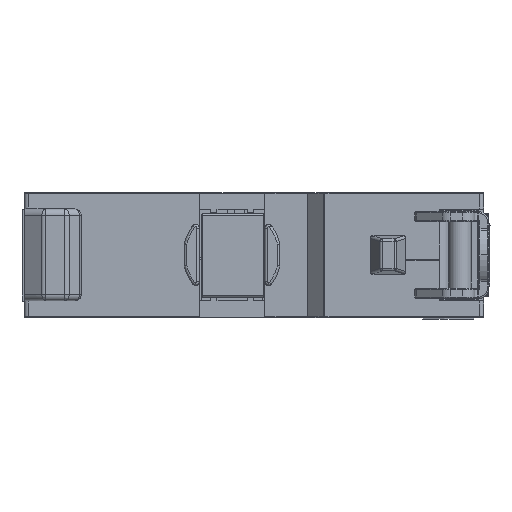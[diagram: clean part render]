
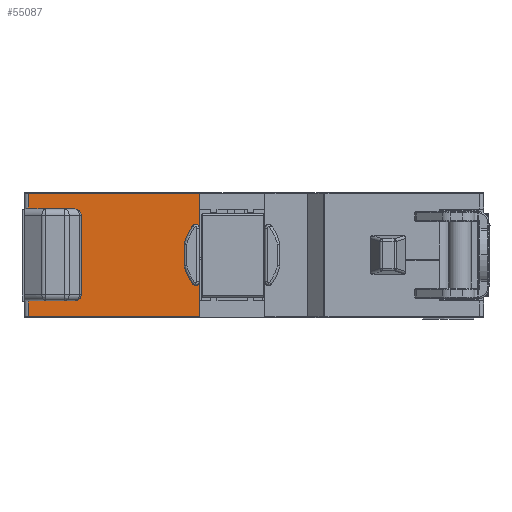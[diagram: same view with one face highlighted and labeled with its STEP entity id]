
A CAD part, top view. The second image highlights one B-rep face of the part: STEP entity #55087.
In plain terms, the highlighted planar face has unit normal (0, 0, 1).
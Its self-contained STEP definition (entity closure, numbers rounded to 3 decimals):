
#648 = CIRCLE ( 'NONE', #24247, 0.3 ) ;
#650 = VERTEX_POINT ( 'NONE', #49465 ) ;
#1181 = EDGE_CURVE ( 'NONE', #7527, #20041, #53222, .T. ) ;
#1490 = VECTOR ( 'NONE', #48809, 1000. ) ;
#1649 = VECTOR ( 'NONE', #1969, 1000. ) ;
#1718 = VERTEX_POINT ( 'NONE', #53734 ) ;
#1969 = DIRECTION ( 'NONE',  ( 0., -1., 0. ) ) ;
#2144 = ORIENTED_EDGE ( 'NONE', *, *, #38549, .F. ) ;
#2689 = DIRECTION ( 'NONE',  ( 0., 1., 0. ) ) ;
#3171 = AXIS2_PLACEMENT_3D ( 'NONE', #56065, #22221, #17128 ) ;
#3708 = CARTESIAN_POINT ( 'NONE',  ( -1.887, -6.561, 33.484 ) ) ;
#4067 = AXIS2_PLACEMENT_3D ( 'NONE', #11348, #28692, #54823 ) ;
#4220 = AXIS2_PLACEMENT_3D ( 'NONE', #33695, #16065, #16610 ) ;
#4788 = VERTEX_POINT ( 'NONE', #36442 ) ;
#5096 = EDGE_CURVE ( 'NONE', #33487, #18694, #13645, .T. ) ;
#5588 = LINE ( 'NONE', #45375, #1490 ) ;
#5640 = LINE ( 'NONE', #6484, #1649 ) ;
#5700 = EDGE_CURVE ( 'NONE', #28237, #7527, #55740, .T. ) ;
#5708 = LINE ( 'NONE', #10546, #17475 ) ;
#6484 = CARTESIAN_POINT ( 'NONE',  ( -1.346, -8.871, 33.484 ) ) ;
#6544 = VERTEX_POINT ( 'NONE', #38636 ) ;
#7057 = CARTESIAN_POINT ( 'NONE',  ( -1.646, -6.738, 33.484 ) ) ;
#7475 = CARTESIAN_POINT ( 'NONE',  ( -15.246, -12.521, 33.484 ) ) ;
#7527 = VERTEX_POINT ( 'NONE', #54529 ) ;
#7824 = DIRECTION ( 'NONE',  ( 0., 1., 0. ) ) ;
#8792 = CARTESIAN_POINT ( 'NONE',  ( -1.346, -12.271, 33.484 ) ) ;
#9070 = LINE ( 'NONE', #8792, #44858 ) ;
#10078 = LINE ( 'NONE', #27164, #12331 ) ;
#10546 = CARTESIAN_POINT ( 'NONE',  ( -14.946, -8.221, 33.484 ) ) ;
#10549 = LINE ( 'NONE', #31034, #45610 ) ;
#11348 = CARTESIAN_POINT ( 'NONE',  ( 1.254, -8.871, 33.484 ) ) ;
#12331 = VECTOR ( 'NONE', #26878, 1000. ) ;
#12638 = ORIENTED_EDGE ( 'NONE', *, *, #14475, .F. ) ;
#13645 = LINE ( 'NONE', #22741, #19383 ) ;
#14050 = CIRCLE ( 'NONE', #45823, 0.5 ) ;
#14081 = ORIENTED_EDGE ( 'NONE', *, *, #49196, .F. ) ;
#14312 = AXIS2_PLACEMENT_3D ( 'NONE', #7475, #37900, #54939 ) ;
#14475 = EDGE_CURVE ( 'NONE', #650, #1718, #24891, .T. ) ;
#14940 = EDGE_CURVE ( 'NONE', #6544, #28237, #10549, .T. ) ;
#16065 = DIRECTION ( 'NONE',  ( 0., 0., 1. ) ) ;
#16610 = DIRECTION ( 'NONE',  ( 0., 1., 0. ) ) ;
#16692 = DIRECTION ( 'NONE',  ( 0., 0., 1. ) ) ;
#16969 = CARTESIAN_POINT ( 'NONE',  ( -1.346, -13.771, 33.484 ) ) ;
#17102 = CARTESIAN_POINT ( 'NONE',  ( -14.946, -13.771, 33.484 ) ) ;
#17128 = DIRECTION ( 'NONE',  ( 0., 1., 0. ) ) ;
#17184 = CARTESIAN_POINT ( 'NONE',  ( -2.546, -9.749, 33.484 ) ) ;
#17322 = DIRECTION ( 'NONE',  ( 0., -1., 0. ) ) ;
#17475 = VECTOR ( 'NONE', #35579, 1000. ) ;
#17542 = ORIENTED_EDGE ( 'NONE', *, *, #14940, .F. ) ;
#17852 = CARTESIAN_POINT ( 'NONE',  ( -1.346, -11.005, 33.484 ) ) ;
#18358 = CARTESIAN_POINT ( 'NONE',  ( -1.646, -6.438, 33.484 ) ) ;
#18547 = VERTEX_POINT ( 'NONE', #33890 ) ;
#18694 = VERTEX_POINT ( 'NONE', #44067 ) ;
#19151 = EDGE_CURVE ( 'NONE', #20041, #24938, #9070, .T. ) ;
#19164 = ORIENTED_EDGE ( 'NONE', *, *, #5096, .F. ) ;
#19383 = VECTOR ( 'NONE', #53137, 1000. ) ;
#19818 = EDGE_CURVE ( 'NONE', #55597, #6544, #28589, .T. ) ;
#20041 = VERTEX_POINT ( 'NONE', #17852 ) ;
#20848 = PLANE ( 'NONE',  #14312 ) ;
#22159 = AXIS2_PLACEMENT_3D ( 'NONE', #55593, #24646, #55888 ) ;
#22221 = DIRECTION ( 'NONE',  ( 0., 0., 1. ) ) ;
#22296 = VERTEX_POINT ( 'NONE', #31907 ) ;
#22741 = CARTESIAN_POINT ( 'NONE',  ( -15.246, -5.221, 33.484 ) ) ;
#23535 = EDGE_CURVE ( 'NONE', #22296, #18547, #55964, .T. ) ;
#23625 = LINE ( 'NONE', #28726, #37789 ) ;
#24247 = AXIS2_PLACEMENT_3D ( 'NONE', #33506, #42576, #47132 ) ;
#24411 = DIRECTION ( 'NONE',  ( 0., 1., 0. ) ) ;
#24640 = ORIENTED_EDGE ( 'NONE', *, *, #31688, .F. ) ;
#24646 = DIRECTION ( 'NONE',  ( 0., 0., 1. ) ) ;
#24891 = LINE ( 'NONE', #37133, #51021 ) ;
#24932 = EDGE_LOOP ( 'NONE', ( #54599, #41994, #47947, #17542, #40243, #25934, #26028, #14081, #35025, #2144, #19164, #24640, #12638, #33354, #46245, #35844, #56204 ) ) ;
#24938 = VERTEX_POINT ( 'NONE', #16969 ) ;
#25035 = CARTESIAN_POINT ( 'NONE',  ( -14.946, -3.971, 33.484 ) ) ;
#25934 = ORIENTED_EDGE ( 'NONE', *, *, #48126, .F. ) ;
#26028 = ORIENTED_EDGE ( 'NONE', *, *, #48122, .F. ) ;
#26668 = CARTESIAN_POINT ( 'NONE',  ( -15.246, -12.521, 33.484 ) ) ;
#26878 = DIRECTION ( 'NONE',  ( -1., 0., 0. ) ) ;
#27164 = CARTESIAN_POINT ( 'NONE',  ( 3.004, -13.771, 33.484 ) ) ;
#27169 = VERTEX_POINT ( 'NONE', #17102 ) ;
#28237 = VERTEX_POINT ( 'NONE', #17184 ) ;
#28589 = CIRCLE ( 'NONE', #4067, 3.9 ) ;
#28692 = DIRECTION ( 'NONE',  ( 0., 0., 1. ) ) ;
#28726 = CARTESIAN_POINT ( 'NONE',  ( -14.946, -13.171, 33.484 ) ) ;
#29691 = DIRECTION ( 'NONE',  ( 0., 0., 1. ) ) ;
#29900 = CARTESIAN_POINT ( 'NONE',  ( -13.046, -5.221, 33.484 ) ) ;
#30573 = AXIS2_PLACEMENT_3D ( 'NONE', #7057, #16692, #24411 ) ;
#31034 = CARTESIAN_POINT ( 'NONE',  ( -2.546, -8.871, 33.484 ) ) ;
#31688 = EDGE_CURVE ( 'NONE', #1718, #33487, #37663, .T. ) ;
#31859 = VERTEX_POINT ( 'NONE', #25035 ) ;
#31907 = CARTESIAN_POINT ( 'NONE',  ( -14.946, -12.521, 33.484 ) ) ;
#32323 = EDGE_CURVE ( 'NONE', #24938, #27169, #10078, .T. ) ;
#32511 = EDGE_CURVE ( 'NONE', #31859, #45401, #5588, .T. ) ;
#33354 = ORIENTED_EDGE ( 'NONE', *, *, #42921, .F. ) ;
#33487 = VERTEX_POINT ( 'NONE', #29900 ) ;
#33506 = CARTESIAN_POINT ( 'NONE',  ( -1.646, -6.738, 33.484 ) ) ;
#33695 = CARTESIAN_POINT ( 'NONE',  ( -1.646, -11.005, 33.484 ) ) ;
#33890 = CARTESIAN_POINT ( 'NONE',  ( -13.046, -12.521, 33.484 ) ) ;
#35025 = ORIENTED_EDGE ( 'NONE', *, *, #32511, .F. ) ;
#35579 = DIRECTION ( 'NONE',  ( 0., 1., 0. ) ) ;
#35844 = ORIENTED_EDGE ( 'NONE', *, *, #47616, .F. ) ;
#36442 = CARTESIAN_POINT ( 'NONE',  ( -1.346, -6.738, 33.484 ) ) ;
#36936 = CIRCLE ( 'NONE', #30573, 0.3 ) ;
#37133 = CARTESIAN_POINT ( 'NONE',  ( -12.546, -8.871, 33.484 ) ) ;
#37663 = CIRCLE ( 'NONE', #3171, 0.5 ) ;
#37789 = VECTOR ( 'NONE', #51155, 1000. ) ;
#37900 = DIRECTION ( 'NONE',  ( 0., 0., -1. ) ) ;
#38549 = EDGE_CURVE ( 'NONE', #18694, #31859, #5708, .T. ) ;
#38636 = CARTESIAN_POINT ( 'NONE',  ( -2.546, -7.994, 33.484 ) ) ;
#40243 = ORIENTED_EDGE ( 'NONE', *, *, #19818, .F. ) ;
#41625 = CARTESIAN_POINT ( 'NONE',  ( -13.046, -12.021, 33.484 ) ) ;
#41994 = ORIENTED_EDGE ( 'NONE', *, *, #1181, .F. ) ;
#42576 = DIRECTION ( 'NONE',  ( 0., 0., 1. ) ) ;
#42921 = EDGE_CURVE ( 'NONE', #18547, #650, #14050, .T. ) ;
#44067 = CARTESIAN_POINT ( 'NONE',  ( -14.946, -5.221, 33.484 ) ) ;
#44858 = VECTOR ( 'NONE', #17322, 1000. ) ;
#45375 = CARTESIAN_POINT ( 'NONE',  ( 3.004, -3.971, 33.484 ) ) ;
#45401 = VERTEX_POINT ( 'NONE', #48658 ) ;
#45610 = VECTOR ( 'NONE', #48360, 1000. ) ;
#45823 = AXIS2_PLACEMENT_3D ( 'NONE', #41625, #29691, #2689 ) ;
#46245 = ORIENTED_EDGE ( 'NONE', *, *, #23535, .F. ) ;
#46412 = FACE_OUTER_BOUND ( 'NONE', #24932, .T. ) ;
#47132 = DIRECTION ( 'NONE',  ( 0., 1., 0. ) ) ;
#47616 = EDGE_CURVE ( 'NONE', #27169, #22296, #23625, .T. ) ;
#47947 = ORIENTED_EDGE ( 'NONE', *, *, #5700, .F. ) ;
#48122 = EDGE_CURVE ( 'NONE', #4788, #54477, #36936, .T. ) ;
#48126 = EDGE_CURVE ( 'NONE', #54477, #55597, #648, .T. ) ;
#48360 = DIRECTION ( 'NONE',  ( 0., -1., 0. ) ) ;
#48658 = CARTESIAN_POINT ( 'NONE',  ( -1.346, -3.971, 33.484 ) ) ;
#48809 = DIRECTION ( 'NONE',  ( 1., 0., 0. ) ) ;
#49196 = EDGE_CURVE ( 'NONE', #45401, #4788, #5640, .T. ) ;
#49465 = CARTESIAN_POINT ( 'NONE',  ( -12.546, -12.021, 33.484 ) ) ;
#51021 = VECTOR ( 'NONE', #7824, 1000. ) ;
#51155 = DIRECTION ( 'NONE',  ( 0., 1., 0. ) ) ;
#51711 = VECTOR ( 'NONE', #56246, 1000. ) ;
#53137 = DIRECTION ( 'NONE',  ( -1., 0., 0. ) ) ;
#53222 = CIRCLE ( 'NONE', #4220, 0.3 ) ;
#53734 = CARTESIAN_POINT ( 'NONE',  ( -12.546, -5.721, 33.484 ) ) ;
#54477 = VERTEX_POINT ( 'NONE', #18358 ) ;
#54529 = CARTESIAN_POINT ( 'NONE',  ( -1.887, -11.182, 33.484 ) ) ;
#54599 = ORIENTED_EDGE ( 'NONE', *, *, #19151, .F. ) ;
#54823 = DIRECTION ( 'NONE',  ( 0., -1., 0. ) ) ;
#54939 = DIRECTION ( 'NONE',  ( -1., 0., 0. ) ) ;
#55087 = ADVANCED_FACE ( 'NONE', ( #46412 ), #20848, .F. ) ;
#55593 = CARTESIAN_POINT ( 'NONE',  ( 1.254, -8.871, 33.484 ) ) ;
#55597 = VERTEX_POINT ( 'NONE', #3708 ) ;
#55740 = CIRCLE ( 'NONE', #22159, 3.9 ) ;
#55888 = DIRECTION ( 'NONE',  ( 0., -1., 0. ) ) ;
#55964 = LINE ( 'NONE', #26668, #51711 ) ;
#56065 = CARTESIAN_POINT ( 'NONE',  ( -13.046, -5.721, 33.484 ) ) ;
#56204 = ORIENTED_EDGE ( 'NONE', *, *, #32323, .F. ) ;
#56246 = DIRECTION ( 'NONE',  ( 1., 0., 0. ) ) ;
